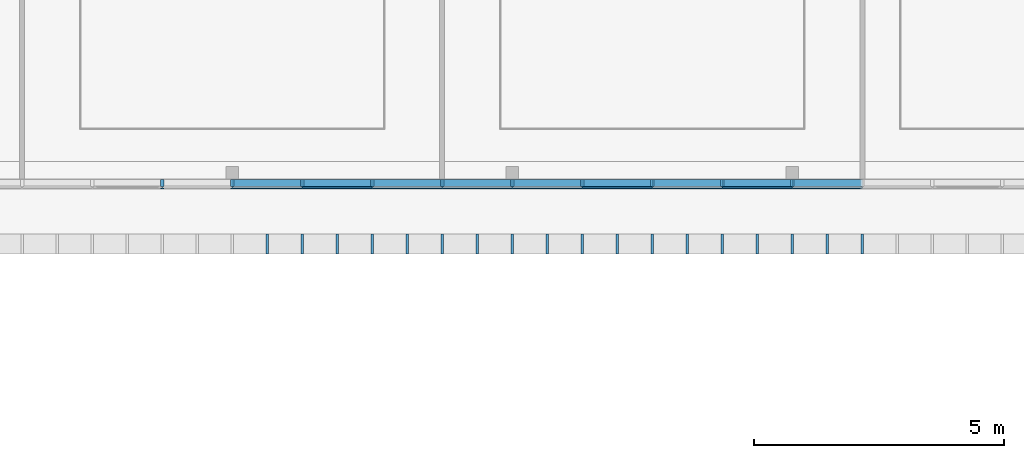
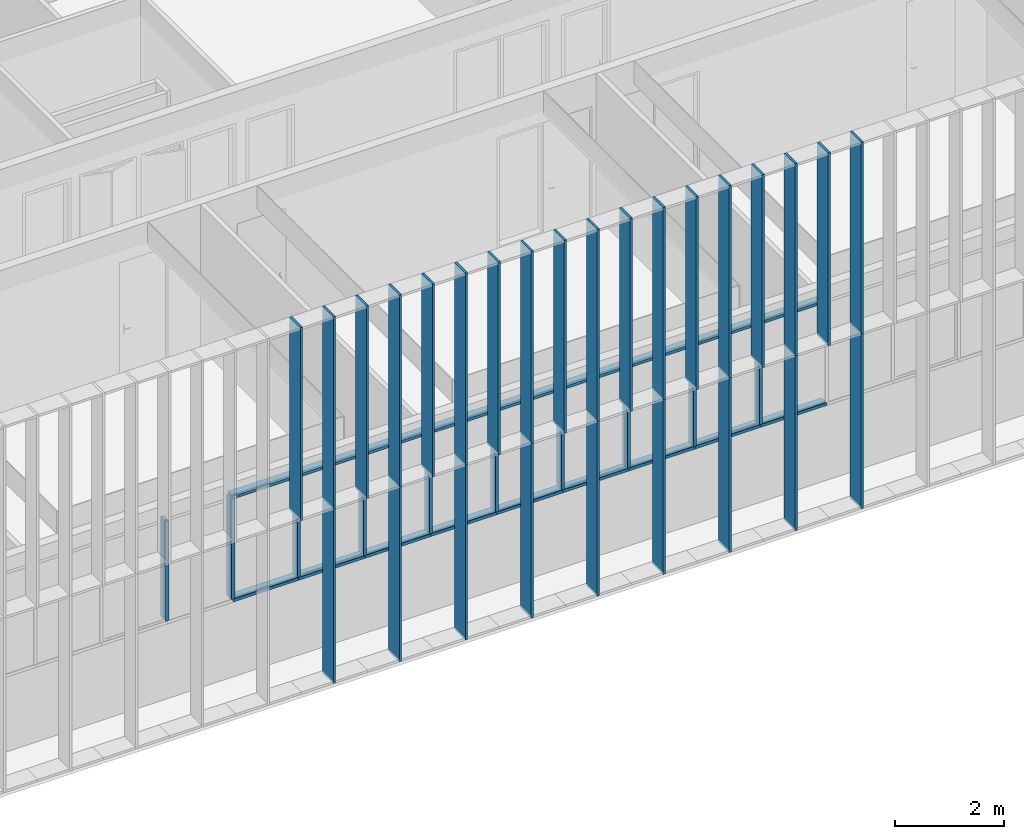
# One storey, part 14 of 106: 55 members, 2 elements without a shape of their own.
"""IFC2X3 building model written with IfcOpenShell, lengths in centimetres."""

from ifc_helpers import new_model, entity, si_unit, converted_unit, derived_unit, direction, frame, origin, origin_2d_with_axis, place, context, subcontext, project, spatial, polyline, rectangle, outline, extrude, source, transform, mapped, material, type_object, type_shapes, element, aggregate, save


model = new_model("IFC2X3")

# Units and contexts
model_context = context("Model", 3, precision=0.001, world=origin(), true_north=direction((6.12303176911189e-17, 1.0)))
body_context = subcontext(model_context, "Body", "Model", "MODEL_VIEW")
ifc_project = project(units=[si_unit("LENGTHUNIT", "METRE", prefix="CENTI"), si_unit("AREAUNIT", "SQUARE_METRE"), si_unit("VOLUMEUNIT", "CUBIC_METRE"), converted_unit("PLANEANGLEUNIT", "DEGREE", entity("IfcRatioMeasure", 0.0174532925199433), si_unit("PLANEANGLEUNIT", "RADIAN"), dimensions=[0, 0, 0, 0, 0, 0, 0]), si_unit("MASSUNIT", "GRAM", prefix="KILO"), derived_unit("MASSDENSITYUNIT", [(si_unit("MASSUNIT", "GRAM", prefix="KILO"), 1), (si_unit("LENGTHUNIT", "METRE"), -3)]), si_unit("TIMEUNIT", "SECOND"), si_unit("FREQUENCYUNIT", "HERTZ"), si_unit("THERMODYNAMICTEMPERATUREUNIT", "DEGREE_CELSIUS"), derived_unit("THERMALTRANSMITTANCEUNIT", [(si_unit("MASSUNIT", "GRAM", prefix="KILO"), 1), (si_unit("THERMODYNAMICTEMPERATUREUNIT", "KELVIN"), -1), (si_unit("TIMEUNIT", "SECOND"), -3)]), derived_unit("VOLUMETRICFLOWRATEUNIT", [(si_unit("LENGTHUNIT", "METRE"), 3), (si_unit("TIMEUNIT", "SECOND"), -1)]), si_unit("ELECTRICCURRENTUNIT", "AMPERE"), si_unit("ELECTRICVOLTAGEUNIT", "VOLT"), si_unit("POWERUNIT", "WATT"), si_unit("FORCEUNIT", "NEWTON", prefix="KILO"), si_unit("ILLUMINANCEUNIT", "LUX"), si_unit("LUMINOUSFLUXUNIT", "LUMEN"), si_unit("LUMINOUSINTENSITYUNIT", "CANDELA"), derived_unit("USERDEFINED", [(si_unit("MASSUNIT", "GRAM", prefix="KILO"), -1), (si_unit("LENGTHUNIT", "METRE"), -2), (si_unit("TIMEUNIT", "SECOND"), 3), (si_unit("LUMINOUSFLUXUNIT", "LUMEN"), 1)]), derived_unit("LINEARVELOCITYUNIT", [(si_unit("LENGTHUNIT", "METRE"), 1), (si_unit("TIMEUNIT", "SECOND"), -1)]), si_unit("PRESSUREUNIT", "PASCAL"), derived_unit("USERDEFINED", [(si_unit("LENGTHUNIT", "METRE"), -2), (si_unit("MASSUNIT", "GRAM", prefix="KILO"), 1), (si_unit("TIMEUNIT", "SECOND"), -2)])], contexts=[model_context])

# Site, building, storey
site_placement = place(None, frame((-2781.94577612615, 7442.24238424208, 0.0)))
site = spatial("IfcSite", under=ifc_project, at=site_placement, Name="Default", CompositionType="ELEMENT")
building_placement = place(site_placement, origin())
building = spatial("IfcBuilding", under=site, at=building_placement, CompositionType="ELEMENT")
storey_placement = place(building_placement, frame((0.0, 0.0, 422.0)))
storey = spatial("IfcBuildingStorey", under=building, at=storey_placement, Name="Toiture - Cuisine", CompositionType="ELEMENT", Elevation=421.999999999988)

# Curtain wall, members
curtain_wall_type_1 = type_object("IfcCurtainWallType", Name="Mur-rideau:07 - mur rideau trame 140 cm", PredefinedType="NOTDEFINED")
curtain_wall_1_placement = place(building_placement, origin())
curtain_wall_1 = element("IfcCurtainWall", 1, at=curtain_wall_1_placement, inside=storey, type_object=curtain_wall_type_1, Name="Mur-rideau:07 - mur rideau trame 140 cm", ObjectType="Mur-rideau:07 - mur rideau trame 140 cm")
ifc_material = material(Name="Aluminium")
member_type_1 = type_object("IfcMemberType", Name="150 x 25mm Détails", PredefinedType="MEMBER")
shared_shape_1 = source(origin(), body_context, "Body", "SweptSolid", [
    extrude(outline(polyline([(-5.6666666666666, -3.24999999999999), (-3.66666666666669, -3.24999999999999), (-3.66666666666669, -0.868749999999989), (-0.166666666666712, -0.868749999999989), (-0.166666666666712, -3.25000000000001), (13.3333333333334, -3.25000000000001), (13.3333333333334, 3.24999999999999), (-0.16666666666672, 3.24999999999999), (-0.16666666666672, 0.868749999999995), (-3.66666666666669, 0.868749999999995), (-3.66666666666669, 3.25), (-5.6666666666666, 3.25), (-5.6666666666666, -3.24999999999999)])), frame((-3.24999999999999, -1.96666666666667, -140.0), z_axis=(0.0, 0.0, 1.0), x_axis=(0.0, -1.0, 0.0)), (0.0, 0.0, 1.0), 140.000000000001),
])
type_shapes(member_type_1, [shared_shape_1])
member_1_placement = place(building_placement, frame((-2370.29988284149, -3046.51349958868, 743.0), z_axis=(1.0, 0.0, 0.0), x_axis=(0.0, 0.0, 1.0)))
member_1 = element("IfcMember", 2, at=member_1_placement, type_object=member_type_1, material=ifc_material, Name="Meneau rectangulaire:150 x 25mm Détails", ObjectType="Meneau rectangulaire:150 x 25mm Détails", context=body_context, shape_type="MappedRepresentation", body=[
    mapped(shared_shape_1, transform((0.0, 0.0, 0.0), scale=1.0)),
])
member_2_placement = place(building_placement, frame((-2230.29988284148, -3046.51349958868, 743.0), z_axis=(1.0, 0.0, 0.0), x_axis=(0.0, 0.0, 1.0)))
member_2 = element("IfcMember", 3, at=member_2_placement, type_object=member_type_1, material=ifc_material, Name="Meneau rectangulaire:150 x 25mm Détails", ObjectType="Meneau rectangulaire:150 x 25mm Détails", context=body_context, shape_type="MappedRepresentation", body=[
    mapped(shared_shape_1, transform((0.0, 0.0, 0.0), scale=1.0)),
])
member_3_placement = place(building_placement, frame((-2090.29988284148, -3046.51349958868, 743.0), z_axis=(1.0, 0.0, 0.0), x_axis=(0.0, 0.0, 1.0)))
member_3 = element("IfcMember", 4, at=member_3_placement, type_object=member_type_1, material=ifc_material, Name="Meneau rectangulaire:150 x 25mm Détails", ObjectType="Meneau rectangulaire:150 x 25mm Détails", context=body_context, shape_type="MappedRepresentation", body=[
    mapped(shared_shape_1, transform((0.0, 0.0, 0.0), scale=1.0)),
])
member_4_placement = place(building_placement, frame((-1950.29988284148, -3046.51349958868, 743.0), z_axis=(1.0, 0.0, 0.0), x_axis=(0.0, 0.0, 1.0)))
member_4 = element("IfcMember", 5, at=member_4_placement, type_object=member_type_1, material=ifc_material, Name="Meneau rectangulaire:150 x 25mm Détails", ObjectType="Meneau rectangulaire:150 x 25mm Détails", context=body_context, shape_type="MappedRepresentation", body=[
    mapped(shared_shape_1, transform((0.0, 0.0, 0.0), scale=1.0)),
])
member_5_placement = place(building_placement, frame((-1810.29988284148, -3046.51349958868, 743.0), z_axis=(1.0, 0.0, 0.0), x_axis=(0.0, 0.0, 1.0)))
member_5 = element("IfcMember", 6, at=member_5_placement, type_object=member_type_1, material=ifc_material, Name="Meneau rectangulaire:150 x 25mm Détails", ObjectType="Meneau rectangulaire:150 x 25mm Détails", context=body_context, shape_type="MappedRepresentation", body=[
    mapped(shared_shape_1, transform((0.0, 0.0, 0.0), scale=1.0)),
])
member_6_placement = place(building_placement, frame((-1670.29988284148, -3046.51349958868, 743.0), z_axis=(1.0, 0.0, 0.0), x_axis=(0.0, 0.0, 1.0)))
member_6 = element("IfcMember", 7, at=member_6_placement, type_object=member_type_1, material=ifc_material, Name="Meneau rectangulaire:150 x 25mm Détails", ObjectType="Meneau rectangulaire:150 x 25mm Détails", context=body_context, shape_type="MappedRepresentation", body=[
    mapped(shared_shape_1, transform((0.0, 0.0, 0.0), scale=1.0)),
])
member_7_placement = place(building_placement, frame((-1530.29988284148, -3046.51349958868, 743.0), z_axis=(1.0, 0.0, 0.0), x_axis=(0.0, 0.0, 1.0)))
member_7 = element("IfcMember", 8, at=member_7_placement, type_object=member_type_1, material=ifc_material, Name="Meneau rectangulaire:150 x 25mm Détails", ObjectType="Meneau rectangulaire:150 x 25mm Détails", context=body_context, shape_type="MappedRepresentation", body=[
    mapped(shared_shape_1, transform((0.0, 0.0, 0.0), scale=1.0)),
])
member_8_placement = place(building_placement, frame((-1390.29988284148, -3046.51349958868, 743.0), z_axis=(1.0, 0.0, 0.0), x_axis=(0.0, 0.0, 1.0)))
member_8 = element("IfcMember", 9, at=member_8_placement, type_object=member_type_1, material=ifc_material, Name="Meneau rectangulaire:150 x 25mm Détails", ObjectType="Meneau rectangulaire:150 x 25mm Détails", context=body_context, shape_type="MappedRepresentation", body=[
    mapped(shared_shape_1, transform((0.0, 0.0, 0.0), scale=1.0)),
])
member_9_placement = place(building_placement, frame((-1250.29988284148, -3046.51349958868, 743.0), z_axis=(1.0, 0.0, 0.0), x_axis=(0.0, 0.0, 1.0)))
member_9 = element("IfcMember", 10, at=member_9_placement, type_object=member_type_1, material=ifc_material, Name="Meneau rectangulaire:150 x 25mm Détails", ObjectType="Meneau rectangulaire:150 x 25mm Détails", context=body_context, shape_type="MappedRepresentation", body=[
    mapped(shared_shape_1, transform((0.0, 0.0, 0.0), scale=1.0)),
])
member_type_2 = type_object("IfcMemberType", Name="150 x 25mm Détails", PredefinedType="MEMBER")
shared_shape_2 = source(origin(), body_context, "Body", "SweptSolid", [
    extrude(outline(polyline([(-5.66666666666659, -3.25), (-3.66666666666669, -3.25), (-3.66666666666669, -0.868749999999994), (-0.166666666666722, -0.868749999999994), (-0.166666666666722, -3.25000000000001), (13.3333333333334, -3.24999999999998), (13.3333333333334, 3.25000000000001), (-0.166666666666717, 3.25000000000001), (-0.166666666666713, 0.868749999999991), (-3.66666666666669, 0.868749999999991), (-3.66666666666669, 3.24999999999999), (-5.66666666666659, 3.24999999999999), (-5.66666666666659, -3.25)])), frame((-3.24999999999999, -1.96666666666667, -140.0), z_axis=(0.0, 0.0, 1.0), x_axis=(0.0, -1.0, 0.0)), (0.0, 0.0, 1.0), 140.000000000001),
])
type_shapes(member_type_2, [shared_shape_2])
member_10_placement = place(building_placement, frame((-2510.29988284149, -3046.51349958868, 505.500000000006), z_axis=(-1.0, 0.0, 0.0), x_axis=(0.0, 0.0, -1.0)))
member_10 = element("IfcMember", 11, at=member_10_placement, type_object=member_type_2, material=ifc_material, Name="Meneau rectangulaire:150 x 25mm Détails", ObjectType="Meneau rectangulaire:150 x 25mm Détails", context=body_context, shape_type="MappedRepresentation", body=[
    mapped(shared_shape_2, transform((0.0, 0.0, 0.0), scale=1.0)),
])
member_11_placement = place(building_placement, frame((-2370.29988284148, -3046.51349958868, 505.500000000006), z_axis=(-1.0, 0.0, 0.0), x_axis=(0.0, 0.0, -1.0)))
member_11 = element("IfcMember", 12, at=member_11_placement, type_object=member_type_2, material=ifc_material, Name="Meneau rectangulaire:150 x 25mm Détails", ObjectType="Meneau rectangulaire:150 x 25mm Détails", context=body_context, shape_type="MappedRepresentation", body=[
    mapped(shared_shape_2, transform((0.0, 0.0, 0.0), scale=1.0)),
])
member_12_placement = place(building_placement, frame((-2230.29988284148, -3046.51349958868, 505.500000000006), z_axis=(-1.0, 0.0, 0.0), x_axis=(0.0, 0.0, -1.0)))
member_12 = element("IfcMember", 13, at=member_12_placement, type_object=member_type_2, material=ifc_material, Name="Meneau rectangulaire:150 x 25mm Détails", ObjectType="Meneau rectangulaire:150 x 25mm Détails", context=body_context, shape_type="MappedRepresentation", body=[
    mapped(shared_shape_2, transform((0.0, 0.0, 0.0), scale=1.0)),
])
member_13_placement = place(building_placement, frame((-2090.29988284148, -3046.51349958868, 505.500000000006), z_axis=(-1.0, 0.0, 0.0), x_axis=(0.0, 0.0, -1.0)))
member_13 = element("IfcMember", 14, at=member_13_placement, type_object=member_type_2, material=ifc_material, Name="Meneau rectangulaire:150 x 25mm Détails", ObjectType="Meneau rectangulaire:150 x 25mm Détails", context=body_context, shape_type="MappedRepresentation", body=[
    mapped(shared_shape_2, transform((0.0, 0.0, 0.0), scale=1.0)),
])
member_14_placement = place(building_placement, frame((-1950.29988284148, -3046.51349958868, 505.500000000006), z_axis=(-1.0, 0.0, 0.0), x_axis=(0.0, 0.0, -1.0)))
member_14 = element("IfcMember", 15, at=member_14_placement, type_object=member_type_2, material=ifc_material, Name="Meneau rectangulaire:150 x 25mm Détails", ObjectType="Meneau rectangulaire:150 x 25mm Détails", context=body_context, shape_type="MappedRepresentation", body=[
    mapped(shared_shape_2, transform((0.0, 0.0, 0.0), scale=1.0)),
])
member_15_placement = place(building_placement, frame((-1810.29988284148, -3046.51349958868, 505.500000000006), z_axis=(-1.0, 0.0, 0.0), x_axis=(0.0, 0.0, -1.0)))
member_15 = element("IfcMember", 16, at=member_15_placement, type_object=member_type_2, material=ifc_material, Name="Meneau rectangulaire:150 x 25mm Détails", ObjectType="Meneau rectangulaire:150 x 25mm Détails", context=body_context, shape_type="MappedRepresentation", body=[
    mapped(shared_shape_2, transform((0.0, 0.0, 0.0), scale=1.0)),
])
member_16_placement = place(building_placement, frame((-1670.29988284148, -3046.51349958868, 505.500000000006), z_axis=(-1.0, 0.0, 0.0), x_axis=(0.0, 0.0, -1.0)))
member_16 = element("IfcMember", 17, at=member_16_placement, type_object=member_type_2, material=ifc_material, Name="Meneau rectangulaire:150 x 25mm Détails", ObjectType="Meneau rectangulaire:150 x 25mm Détails", context=body_context, shape_type="MappedRepresentation", body=[
    mapped(shared_shape_2, transform((0.0, 0.0, 0.0), scale=1.0)),
])
member_17_placement = place(building_placement, frame((-1530.29988284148, -3046.51349958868, 505.500000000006), z_axis=(-1.0, 0.0, 0.0), x_axis=(0.0, 0.0, -1.0)))
member_17 = element("IfcMember", 18, at=member_17_placement, type_object=member_type_2, material=ifc_material, Name="Meneau rectangulaire:150 x 25mm Détails", ObjectType="Meneau rectangulaire:150 x 25mm Détails", context=body_context, shape_type="MappedRepresentation", body=[
    mapped(shared_shape_2, transform((0.0, 0.0, 0.0), scale=1.0)),
])
member_18_placement = place(building_placement, frame((-1390.29988284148, -3046.51349958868, 505.500000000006), z_axis=(-1.0, 0.0, 0.0), x_axis=(0.0, 0.0, -1.0)))
member_18 = element("IfcMember", 19, at=member_18_placement, type_object=member_type_2, material=ifc_material, Name="Meneau rectangulaire:150 x 25mm Détails", ObjectType="Meneau rectangulaire:150 x 25mm Détails", context=body_context, shape_type="MappedRepresentation", body=[
    mapped(shared_shape_2, transform((0.0, 0.0, 0.0), scale=1.0)),
])
member_type_3 = type_object("IfcMemberType", Name="150 x 25mm Détails", PredefinedType="MEMBER")
shared_shape_3 = source(origin(), body_context, "Body", "SweptSolid", [
    extrude(outline(polyline([(-5.6666666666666, -3.24999999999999), (-3.66666666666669, -3.24999999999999), (-3.66666666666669, -0.86874999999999), (-0.166666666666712, -0.86874999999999), (-0.166666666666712, -3.25000000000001), (13.3333333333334, -3.25000000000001), (13.3333333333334, 3.24999999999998), (-0.16666666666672, 3.24999999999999), (-0.16666666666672, 0.868749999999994), (-3.66666666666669, 0.868749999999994), (-3.66666666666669, 3.25), (-5.6666666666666, 3.25), (-5.6666666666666, -3.24999999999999)])), frame((0.0, -1.96666666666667, -224.5), z_axis=(0.0, 0.0, 1.0), x_axis=(0.0, -1.0, 0.0)), (0.0, 0.0, 1.0), 224.5),
])
type_shapes(member_type_3, [shared_shape_3])
member_19_placement = place(building_placement, frame((-2650.29988284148, -3046.51349958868, 512.0), z_axis=(0.0, 0.0, -1.0), x_axis=(1.0, 0.0, 0.0)))
member_19 = element("IfcMember", 20, at=member_19_placement, type_object=member_type_3, material=ifc_material, Name="Meneau rectangulaire:150 x 25mm Détails", ObjectType="Meneau rectangulaire:150 x 25mm Détails", context=body_context, shape_type="MappedRepresentation", body=[
    mapped(shared_shape_3, transform((0.0, 0.0, 0.0), scale=1.0)),
])
member_20_placement = place(building_placement, frame((-2510.29988284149, -3046.51349958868, 512.0), z_axis=(0.0, 0.0, -1.0), x_axis=(1.0, 0.0, 0.0)))
member_20 = element("IfcMember", 21, at=member_20_placement, type_object=member_type_3, material=ifc_material, Name="Meneau rectangulaire:150 x 25mm Détails", ObjectType="Meneau rectangulaire:150 x 25mm Détails", context=body_context, shape_type="MappedRepresentation", body=[
    mapped(shared_shape_3, transform((0.0, 0.0, 0.0), scale=1.0)),
])
member_21_placement = place(building_placement, frame((-2370.29988284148, -3046.51349958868, 512.0), z_axis=(0.0, 0.0, -1.0), x_axis=(1.0, 0.0, 0.0)))
member_21 = element("IfcMember", 22, at=member_21_placement, type_object=member_type_3, material=ifc_material, Name="Meneau rectangulaire:150 x 25mm Détails", ObjectType="Meneau rectangulaire:150 x 25mm Détails", context=body_context, shape_type="MappedRepresentation", body=[
    mapped(shared_shape_3, transform((0.0, 0.0, 0.0), scale=1.0)),
])
member_22_placement = place(building_placement, frame((-2230.29988284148, -3046.51349958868, 512.0), z_axis=(0.0, 0.0, -1.0), x_axis=(1.0, 0.0, 0.0)))
member_22 = element("IfcMember", 23, at=member_22_placement, type_object=member_type_3, material=ifc_material, Name="Meneau rectangulaire:150 x 25mm Détails", ObjectType="Meneau rectangulaire:150 x 25mm Détails", context=body_context, shape_type="MappedRepresentation", body=[
    mapped(shared_shape_3, transform((0.0, 0.0, 0.0), scale=1.0)),
])
member_23_placement = place(building_placement, frame((-2090.29988284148, -3046.51349958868, 512.0), z_axis=(0.0, 0.0, -1.0), x_axis=(1.0, 0.0, 0.0)))
member_23 = element("IfcMember", 24, at=member_23_placement, type_object=member_type_3, material=ifc_material, Name="Meneau rectangulaire:150 x 25mm Détails", ObjectType="Meneau rectangulaire:150 x 25mm Détails", context=body_context, shape_type="MappedRepresentation", body=[
    mapped(shared_shape_3, transform((0.0, 0.0, 0.0), scale=1.0)),
])
member_24_placement = place(building_placement, frame((-1950.29988284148, -3046.51349958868, 512.0), z_axis=(0.0, 0.0, -1.0), x_axis=(1.0, 0.0, 0.0)))
member_24 = element("IfcMember", 25, at=member_24_placement, type_object=member_type_3, material=ifc_material, Name="Meneau rectangulaire:150 x 25mm Détails", ObjectType="Meneau rectangulaire:150 x 25mm Détails", context=body_context, shape_type="MappedRepresentation", body=[
    mapped(shared_shape_3, transform((0.0, 0.0, 0.0), scale=1.0)),
])
member_25_placement = place(building_placement, frame((-1810.29988284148, -3046.51349958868, 512.0), z_axis=(0.0, 0.0, -1.0), x_axis=(1.0, 0.0, 0.0)))
member_25 = element("IfcMember", 26, at=member_25_placement, type_object=member_type_3, material=ifc_material, Name="Meneau rectangulaire:150 x 25mm Détails", ObjectType="Meneau rectangulaire:150 x 25mm Détails", context=body_context, shape_type="MappedRepresentation", body=[
    mapped(shared_shape_3, transform((0.0, 0.0, 0.0), scale=1.0)),
])
member_26_placement = place(building_placement, frame((-1670.29988284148, -3046.51349958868, 512.0), z_axis=(0.0, 0.0, -1.0), x_axis=(1.0, 0.0, 0.0)))
member_26 = element("IfcMember", 27, at=member_26_placement, type_object=member_type_3, material=ifc_material, Name="Meneau rectangulaire:150 x 25mm Détails", ObjectType="Meneau rectangulaire:150 x 25mm Détails", context=body_context, shape_type="MappedRepresentation", body=[
    mapped(shared_shape_3, transform((0.0, 0.0, 0.0), scale=1.0)),
])
member_27_placement = place(building_placement, frame((-1530.29988284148, -3046.51349958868, 512.0), z_axis=(0.0, 0.0, -1.0), x_axis=(1.0, 0.0, 0.0)))
member_27 = element("IfcMember", 28, at=member_27_placement, type_object=member_type_3, material=ifc_material, Name="Meneau rectangulaire:150 x 25mm Détails", ObjectType="Meneau rectangulaire:150 x 25mm Détails", context=body_context, shape_type="MappedRepresentation", body=[
    mapped(shared_shape_3, transform((0.0, 0.0, 0.0), scale=1.0)),
])
member_28_placement = place(building_placement, frame((-1390.29988284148, -3046.51349958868, 512.0), z_axis=(0.0, 0.0, -1.0), x_axis=(1.0, 0.0, 0.0)))
member_28 = element("IfcMember", 29, at=member_28_placement, type_object=member_type_3, material=ifc_material, Name="Meneau rectangulaire:150 x 25mm Détails", ObjectType="Meneau rectangulaire:150 x 25mm Détails", context=body_context, shape_type="MappedRepresentation", body=[
    mapped(shared_shape_3, transform((0.0, 0.0, 0.0), scale=1.0)),
])
aggregate(curtain_wall_1, [member_1, member_2, member_3, member_4, member_5, member_6, member_7, member_8, member_9, member_10, member_11, member_12, member_13, member_14, member_15, member_16, member_17, member_18, member_19, member_20, member_21, member_22, member_23, member_24, member_25, member_26, member_27, member_28])

curtain_wall_type_2 = type_object("IfcCurtainWallType", Name="Mur-rideau:Epines - 400x30mm", PredefinedType="NOTDEFINED")
curtain_wall_2_placement = place(building_placement, origin())
curtain_wall_2 = element("IfcCurtainWall", 30, at=curtain_wall_2_placement, inside=storey, type_object=curtain_wall_type_2, Name="Mur-rideau:Epines - 400x30mm", ObjectType="Mur-rideau:Epines - 400x30mm")
member_type_4 = type_object("IfcMemberType", Name="Epine sud (400x50 mm)", PredefinedType="MEMBER")
shared_shape_4 = source(origin(), body_context, "Body", "SweptSolid", [
    extrude(rectangle(XDim=40.0, YDim=5.0, at=origin_2d_with_axis()), frame((0.0, 0.0, -392.5), z_axis=(0.0, 0.0, 1.0), x_axis=(0.0, -1.0, 0.0)), (0.0, 0.0, 1.0), 392.5),
])
type_shapes(member_type_4, [shared_shape_4])
member_29_placement = place(building_placement, frame((-2370.49987760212, -3160.31349958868, 353.0), z_axis=(0.0, 0.0, -1.0), x_axis=(1.0, 0.0, 0.0)))
member_29 = element("IfcMember", 31, at=member_29_placement, type_object=member_type_4, material=ifc_material, Name="Meneau rectangulaire:Epine sud (400x50 mm)", ObjectType="Meneau rectangulaire:Epine sud (400x50 mm)", context=body_context, shape_type="MappedRepresentation", body=[
    mapped(shared_shape_4, transform((0.0, 0.0, 0.0), scale=1.0)),
])
member_30_placement = place(building_placement, frame((-2230.49987760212, -3160.31349958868, 353.0), z_axis=(0.0, 0.0, -1.0), x_axis=(1.0, 0.0, 0.0)))
member_30 = element("IfcMember", 32, at=member_30_placement, type_object=member_type_4, material=ifc_material, Name="Meneau rectangulaire:Epine sud (400x50 mm)", ObjectType="Meneau rectangulaire:Epine sud (400x50 mm)", context=body_context, shape_type="MappedRepresentation", body=[
    mapped(shared_shape_4, transform((0.0, 0.0, 0.0), scale=1.0)),
])
member_31_placement = place(building_placement, frame((-2090.49987760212, -3160.31349958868, 353.0), z_axis=(0.0, 0.0, -1.0), x_axis=(1.0, 0.0, 0.0)))
member_31 = element("IfcMember", 33, at=member_31_placement, type_object=member_type_4, material=ifc_material, Name="Meneau rectangulaire:Epine sud (400x50 mm)", ObjectType="Meneau rectangulaire:Epine sud (400x50 mm)", context=body_context, shape_type="MappedRepresentation", body=[
    mapped(shared_shape_4, transform((0.0, 0.0, 0.0), scale=1.0)),
])
member_32_placement = place(building_placement, frame((-1950.49987760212, -3160.31349958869, 353.0), z_axis=(0.0, 0.0, -1.0), x_axis=(1.0, 0.0, 0.0)))
member_32 = element("IfcMember", 34, at=member_32_placement, type_object=member_type_4, material=ifc_material, Name="Meneau rectangulaire:Epine sud (400x50 mm)", ObjectType="Meneau rectangulaire:Epine sud (400x50 mm)", context=body_context, shape_type="MappedRepresentation", body=[
    mapped(shared_shape_4, transform((0.0, 0.0, 0.0), scale=1.0)),
])
member_33_placement = place(building_placement, frame((-1810.49987760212, -3160.31349958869, 353.0), z_axis=(0.0, 0.0, -1.0), x_axis=(1.0, 0.0, 0.0)))
member_33 = element("IfcMember", 35, at=member_33_placement, type_object=member_type_4, material=ifc_material, Name="Meneau rectangulaire:Epine sud (400x50 mm)", ObjectType="Meneau rectangulaire:Epine sud (400x50 mm)", context=body_context, shape_type="MappedRepresentation", body=[
    mapped(shared_shape_4, transform((0.0, 0.0, 0.0), scale=1.0)),
])
member_34_placement = place(building_placement, frame((-1670.49987760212, -3160.31349958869, 353.0), z_axis=(0.0, 0.0, -1.0), x_axis=(1.0, 0.0, 0.0)))
member_34 = element("IfcMember", 36, at=member_34_placement, type_object=member_type_4, material=ifc_material, Name="Meneau rectangulaire:Epine sud (400x50 mm)", ObjectType="Meneau rectangulaire:Epine sud (400x50 mm)", context=body_context, shape_type="MappedRepresentation", body=[
    mapped(shared_shape_4, transform((0.0, 0.0, 0.0), scale=1.0)),
])
member_35_placement = place(building_placement, frame((-1530.49987760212, -3160.31349958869, 353.0), z_axis=(0.0, 0.0, -1.0), x_axis=(1.0, 0.0, 0.0)))
member_35 = element("IfcMember", 37, at=member_35_placement, type_object=member_type_4, material=ifc_material, Name="Meneau rectangulaire:Epine sud (400x50 mm)", ObjectType="Meneau rectangulaire:Epine sud (400x50 mm)", context=body_context, shape_type="MappedRepresentation", body=[
    mapped(shared_shape_4, transform((0.0, 0.0, 0.0), scale=1.0)),
])
member_36_placement = place(building_placement, frame((-1390.49987760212, -3160.31349958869, 353.0), z_axis=(0.0, 0.0, -1.0), x_axis=(1.0, 0.0, 0.0)))
member_36 = element("IfcMember", 38, at=member_36_placement, type_object=member_type_4, material=ifc_material, Name="Meneau rectangulaire:Epine sud (400x50 mm)", ObjectType="Meneau rectangulaire:Epine sud (400x50 mm)", context=body_context, shape_type="MappedRepresentation", body=[
    mapped(shared_shape_4, transform((0.0, 0.0, 0.0), scale=1.0)),
])
member_37_placement = place(building_placement, frame((-1250.49987760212, -3160.31349958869, 353.0), z_axis=(0.0, 0.0, -1.0), x_axis=(1.0, 0.0, 0.0)))
member_37 = element("IfcMember", 39, at=member_37_placement, type_object=member_type_4, material=ifc_material, Name="Meneau rectangulaire:Epine sud (400x50 mm)", ObjectType="Meneau rectangulaire:Epine sud (400x50 mm)", context=body_context, shape_type="MappedRepresentation", body=[
    mapped(shared_shape_4, transform((0.0, 0.0, 0.0), scale=1.0)),
])
member_type_5 = type_object("IfcMemberType", Name="Epine sud (400x50 mm)", PredefinedType="MEMBER")
shared_shape_5 = source(origin(), body_context, "Body", "SweptSolid", [
    extrude(rectangle(XDim=40.0, YDim=5.0, at=origin_2d_with_axis()), frame((0.0, 0.0, -430.5), z_axis=(0.0, 0.0, 1.0), x_axis=(0.0, -1.0, 0.0)), (0.0, 0.0, 1.0), 430.5),
])
type_shapes(member_type_5, [shared_shape_5])
member_38_placement = place(building_placement, frame((-2370.49987760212, -3160.31349958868, 745.5), z_axis=(0.0, 0.0, -1.0), x_axis=(1.0, 0.0, 0.0)))
member_38 = element("IfcMember", 40, at=member_38_placement, type_object=member_type_5, material=ifc_material, Name="Meneau rectangulaire:Epine sud (400x50 mm)", ObjectType="Meneau rectangulaire:Epine sud (400x50 mm)", context=body_context, shape_type="MappedRepresentation", body=[
    mapped(shared_shape_5, transform((0.0, 0.0, 0.0), scale=1.0)),
])
member_39_placement = place(building_placement, frame((-2230.49987760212, -3160.31349958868, 745.5), z_axis=(0.0, 0.0, -1.0), x_axis=(1.0, 0.0, 0.0)))
member_39 = element("IfcMember", 41, at=member_39_placement, type_object=member_type_5, material=ifc_material, Name="Meneau rectangulaire:Epine sud (400x50 mm)", ObjectType="Meneau rectangulaire:Epine sud (400x50 mm)", context=body_context, shape_type="MappedRepresentation", body=[
    mapped(shared_shape_5, transform((0.0, 0.0, 0.0), scale=1.0)),
])
member_40_placement = place(building_placement, frame((-2090.49987760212, -3160.31349958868, 745.5), z_axis=(0.0, 0.0, -1.0), x_axis=(1.0, 0.0, 0.0)))
member_40 = element("IfcMember", 42, at=member_40_placement, type_object=member_type_5, material=ifc_material, Name="Meneau rectangulaire:Epine sud (400x50 mm)", ObjectType="Meneau rectangulaire:Epine sud (400x50 mm)", context=body_context, shape_type="MappedRepresentation", body=[
    mapped(shared_shape_5, transform((0.0, 0.0, 0.0), scale=1.0)),
])
member_41_placement = place(building_placement, frame((-1950.49987760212, -3160.31349958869, 745.5), z_axis=(0.0, 0.0, -1.0), x_axis=(1.0, 0.0, 0.0)))
member_41 = element("IfcMember", 43, at=member_41_placement, type_object=member_type_5, material=ifc_material, Name="Meneau rectangulaire:Epine sud (400x50 mm)", ObjectType="Meneau rectangulaire:Epine sud (400x50 mm)", context=body_context, shape_type="MappedRepresentation", body=[
    mapped(shared_shape_5, transform((0.0, 0.0, 0.0), scale=1.0)),
])
member_42_placement = place(building_placement, frame((-1810.49987760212, -3160.31349958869, 745.5), z_axis=(0.0, 0.0, -1.0), x_axis=(1.0, 0.0, 0.0)))
member_42 = element("IfcMember", 44, at=member_42_placement, type_object=member_type_5, material=ifc_material, Name="Meneau rectangulaire:Epine sud (400x50 mm)", ObjectType="Meneau rectangulaire:Epine sud (400x50 mm)", context=body_context, shape_type="MappedRepresentation", body=[
    mapped(shared_shape_5, transform((0.0, 0.0, 0.0), scale=1.0)),
])
member_43_placement = place(building_placement, frame((-1670.49987760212, -3160.31349958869, 745.5), z_axis=(0.0, 0.0, -1.0), x_axis=(1.0, 0.0, 0.0)))
member_43 = element("IfcMember", 45, at=member_43_placement, type_object=member_type_5, material=ifc_material, Name="Meneau rectangulaire:Epine sud (400x50 mm)", ObjectType="Meneau rectangulaire:Epine sud (400x50 mm)", context=body_context, shape_type="MappedRepresentation", body=[
    mapped(shared_shape_5, transform((0.0, 0.0, 0.0), scale=1.0)),
])
member_44_placement = place(building_placement, frame((-1530.49987760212, -3160.31349958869, 745.5), z_axis=(0.0, 0.0, -1.0), x_axis=(1.0, 0.0, 0.0)))
member_44 = element("IfcMember", 46, at=member_44_placement, type_object=member_type_5, material=ifc_material, Name="Meneau rectangulaire:Epine sud (400x50 mm)", ObjectType="Meneau rectangulaire:Epine sud (400x50 mm)", context=body_context, shape_type="MappedRepresentation", body=[
    mapped(shared_shape_5, transform((0.0, 0.0, 0.0), scale=1.0)),
])
member_45_placement = place(building_placement, frame((-1390.49987760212, -3160.31349958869, 745.5), z_axis=(0.0, 0.0, -1.0), x_axis=(1.0, 0.0, 0.0)))
member_45 = element("IfcMember", 47, at=member_45_placement, type_object=member_type_5, material=ifc_material, Name="Meneau rectangulaire:Epine sud (400x50 mm)", ObjectType="Meneau rectangulaire:Epine sud (400x50 mm)", context=body_context, shape_type="MappedRepresentation", body=[
    mapped(shared_shape_5, transform((0.0, 0.0, 0.0), scale=1.0)),
])
member_46_placement = place(building_placement, frame((-1250.49987760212, -3160.31349958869, 745.5), z_axis=(0.0, 0.0, -1.0), x_axis=(1.0, 0.0, 0.0)))
member_46 = element("IfcMember", 48, at=member_46_placement, type_object=member_type_5, material=ifc_material, Name="Meneau rectangulaire:Epine sud (400x50 mm)", ObjectType="Meneau rectangulaire:Epine sud (400x50 mm)", context=body_context, shape_type="MappedRepresentation", body=[
    mapped(shared_shape_5, transform((0.0, 0.0, 0.0), scale=1.0)),
])
member_type_6 = type_object("IfcMemberType", Name="Epine sud (400x50 mm)", PredefinedType="MEMBER")
shared_shape_6 = source(origin(), body_context, "Body", "SweptSolid", [
    extrude(rectangle(XDim=40.0, YDim=5.0, at=origin_2d_with_axis()), frame((0.0, 0.0, -433.0), z_axis=(0.0, 0.0, 1.0), x_axis=(0.0, -1.0, 0.0)), (0.0, 0.0, 1.0), 433.0),
])
type_shapes(member_type_6, [shared_shape_6])
member_47_placement = place(building_placement, frame((-2440.49987760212, -3160.31349958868, 743.0), z_axis=(0.0, 0.0, -1.0), x_axis=(1.0, 0.0, 0.0)))
member_47 = element("IfcMember", 49, at=member_47_placement, type_object=member_type_6, material=ifc_material, Name="Meneau rectangulaire:Epine sud (400x50 mm)", ObjectType="Meneau rectangulaire:Epine sud (400x50 mm)", context=body_context, shape_type="MappedRepresentation", body=[
    mapped(shared_shape_6, transform((0.0, 0.0, 0.0), scale=1.0)),
])
member_48_placement = place(building_placement, frame((-2300.49987760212, -3160.31349958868, 743.0), z_axis=(0.0, 0.0, -1.0), x_axis=(1.0, 0.0, 0.0)))
member_48 = element("IfcMember", 50, at=member_48_placement, type_object=member_type_6, material=ifc_material, Name="Meneau rectangulaire:Epine sud (400x50 mm)", ObjectType="Meneau rectangulaire:Epine sud (400x50 mm)", context=body_context, shape_type="MappedRepresentation", body=[
    mapped(shared_shape_6, transform((0.0, 0.0, 0.0), scale=1.0)),
])
member_49_placement = place(building_placement, frame((-2160.49987760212, -3160.31349958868, 743.0), z_axis=(0.0, 0.0, -1.0), x_axis=(1.0, 0.0, 0.0)))
member_49 = element("IfcMember", 51, at=member_49_placement, type_object=member_type_6, material=ifc_material, Name="Meneau rectangulaire:Epine sud (400x50 mm)", ObjectType="Meneau rectangulaire:Epine sud (400x50 mm)", context=body_context, shape_type="MappedRepresentation", body=[
    mapped(shared_shape_6, transform((0.0, 0.0, 0.0), scale=1.0)),
])
member_50_placement = place(building_placement, frame((-2020.49987760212, -3160.31349958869, 743.0), z_axis=(0.0, 0.0, -1.0), x_axis=(1.0, 0.0, 0.0)))
member_50 = element("IfcMember", 52, at=member_50_placement, type_object=member_type_6, material=ifc_material, Name="Meneau rectangulaire:Epine sud (400x50 mm)", ObjectType="Meneau rectangulaire:Epine sud (400x50 mm)", context=body_context, shape_type="MappedRepresentation", body=[
    mapped(shared_shape_6, transform((0.0, 0.0, 0.0), scale=1.0)),
])
member_51_placement = place(building_placement, frame((-1880.49987760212, -3160.31349958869, 743.0), z_axis=(0.0, 0.0, -1.0), x_axis=(1.0, 0.0, 0.0)))
member_51 = element("IfcMember", 53, at=member_51_placement, type_object=member_type_6, material=ifc_material, Name="Meneau rectangulaire:Epine sud (400x50 mm)", ObjectType="Meneau rectangulaire:Epine sud (400x50 mm)", context=body_context, shape_type="MappedRepresentation", body=[
    mapped(shared_shape_6, transform((0.0, 0.0, 0.0), scale=1.0)),
])
member_52_placement = place(building_placement, frame((-1740.49987760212, -3160.31349958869, 743.0), z_axis=(0.0, 0.0, -1.0), x_axis=(1.0, 0.0, 0.0)))
member_52 = element("IfcMember", 54, at=member_52_placement, type_object=member_type_6, material=ifc_material, Name="Meneau rectangulaire:Epine sud (400x50 mm)", ObjectType="Meneau rectangulaire:Epine sud (400x50 mm)", context=body_context, shape_type="MappedRepresentation", body=[
    mapped(shared_shape_6, transform((0.0, 0.0, 0.0), scale=1.0)),
])
member_53_placement = place(building_placement, frame((-1600.49987760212, -3160.31349958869, 743.0), z_axis=(0.0, 0.0, -1.0), x_axis=(1.0, 0.0, 0.0)))
member_53 = element("IfcMember", 55, at=member_53_placement, type_object=member_type_6, material=ifc_material, Name="Meneau rectangulaire:Epine sud (400x50 mm)", ObjectType="Meneau rectangulaire:Epine sud (400x50 mm)", context=body_context, shape_type="MappedRepresentation", body=[
    mapped(shared_shape_6, transform((0.0, 0.0, 0.0), scale=1.0)),
])
member_54_placement = place(building_placement, frame((-1460.49987760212, -3160.31349958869, 743.0), z_axis=(0.0, 0.0, -1.0), x_axis=(1.0, 0.0, 0.0)))
member_54 = element("IfcMember", 56, at=member_54_placement, type_object=member_type_6, material=ifc_material, Name="Meneau rectangulaire:Epine sud (400x50 mm)", ObjectType="Meneau rectangulaire:Epine sud (400x50 mm)", context=body_context, shape_type="MappedRepresentation", body=[
    mapped(shared_shape_6, transform((0.0, 0.0, 0.0), scale=1.0)),
])
member_55_placement = place(building_placement, frame((-1320.49987760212, -3160.31349958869, 743.0), z_axis=(0.0, 0.0, -1.0), x_axis=(1.0, 0.0, 0.0)))
member_55 = element("IfcMember", 57, at=member_55_placement, type_object=member_type_6, material=ifc_material, Name="Meneau rectangulaire:Epine sud (400x50 mm)", ObjectType="Meneau rectangulaire:Epine sud (400x50 mm)", context=body_context, shape_type="MappedRepresentation", body=[
    mapped(shared_shape_6, transform((0.0, 0.0, 0.0), scale=1.0)),
])
aggregate(curtain_wall_2, [member_38, member_29, member_39, member_30, member_40, member_31, member_41, member_32, member_42, member_33, member_43, member_34, member_44, member_35, member_45, member_36, member_46, member_37, member_47, member_48, member_49, member_50, member_51, member_52, member_53, member_54, member_55])

save(model, "model.ifc")
